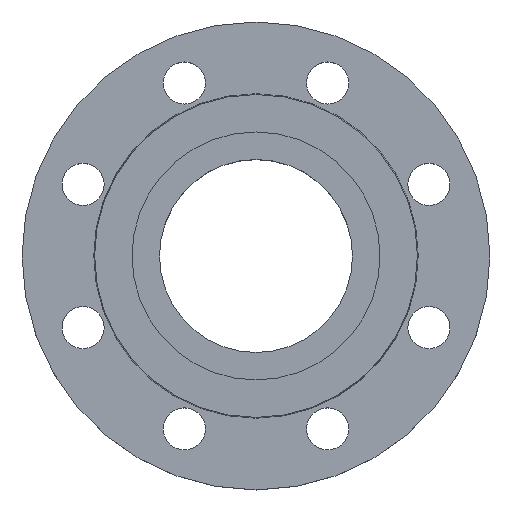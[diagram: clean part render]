
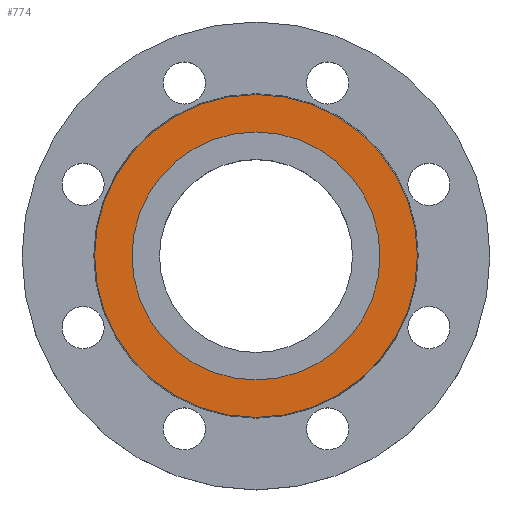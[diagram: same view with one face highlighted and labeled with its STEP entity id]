
A CAD part, top view. The second image highlights one B-rep face of the part: STEP entity #774.
In plain terms, the highlighted planar face has unit normal (0, 0, 1).
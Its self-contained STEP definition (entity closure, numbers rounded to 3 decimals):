
#111 = CARTESIAN_POINT ( 'NONE',  ( 53., 0., 0. ) ) ;
#114 = CARTESIAN_POINT ( 'NONE',  ( -69., 0., 0. ) ) ;
#117 = CARTESIAN_POINT ( 'NONE',  ( 69., 0., 0. ) ) ;
#121 = AXIS2_PLACEMENT_3D ( 'NONE', #251, #250, #249 ) ;
#249 = DIRECTION ( 'NONE',  ( -1., 0., 0. ) ) ;
#250 = DIRECTION ( 'NONE',  ( 0., 0., -1. ) ) ;
#251 = CARTESIAN_POINT ( 'NONE',  ( 0., 0., 0. ) ) ;
#252 = DIRECTION ( 'NONE',  ( -1., 0., 0. ) ) ;
#254 = DIRECTION ( 'NONE',  ( 0., 0., -1. ) ) ;
#255 = CARTESIAN_POINT ( 'NONE',  ( 0., 0., 0. ) ) ;
#259 = CIRCLE ( 'NONE', #121, 53. ) ;
#284 = CARTESIAN_POINT ( 'NONE',  ( -53., 0., 0. ) ) ;
#364 = AXIS2_PLACEMENT_3D ( 'NONE', #576, #574, #573 ) ;
#368 = CIRCLE ( 'NONE', #364, 69. ) ;
#454 = DIRECTION ( 'NONE',  ( 1., 0., 0. ) ) ;
#455 = DIRECTION ( 'NONE',  ( 0., 0., 1. ) ) ;
#456 = CARTESIAN_POINT ( 'NONE',  ( 0., 0., 0. ) ) ;
#458 = PLANE ( 'NONE',  #710 ) ;
#459 = FACE_BOUND ( 'NONE', #1068, .T. ) ;
#460 = FACE_OUTER_BOUND ( 'NONE', #1194, .T. ) ;
#502 = EDGE_CURVE ( 'NONE', #1099, #1097, #368, .T. ) ;
#546 = DIRECTION ( 'NONE',  ( -1., 0., 0. ) ) ;
#547 = DIRECTION ( 'NONE',  ( 0., 0., -1. ) ) ;
#548 = CARTESIAN_POINT ( 'NONE',  ( 0., 0., 0. ) ) ;
#573 = DIRECTION ( 'NONE',  ( -1., 0., 0. ) ) ;
#574 = DIRECTION ( 'NONE',  ( 0., 0., -1. ) ) ;
#576 = CARTESIAN_POINT ( 'NONE',  ( 0., 0., 0. ) ) ;
#580 = EDGE_CURVE ( 'NONE', #967, #1104, #649, .T. ) ;
#649 = CIRCLE ( 'NONE', #651, 53. ) ;
#651 = AXIS2_PLACEMENT_3D ( 'NONE', #548, #547, #546 ) ;
#710 = AXIS2_PLACEMENT_3D ( 'NONE', #456, #455, #454 ) ;
#755 = CIRCLE ( 'NONE', #779, 69. ) ;
#756 = ORIENTED_EDGE ( 'NONE', *, *, #502, .F. ) ;
#757 = ORIENTED_EDGE ( 'NONE', *, *, #1019, .F. ) ;
#758 = ORIENTED_EDGE ( 'NONE', *, *, #580, .T. ) ;
#761 = ORIENTED_EDGE ( 'NONE', *, *, #1023, .T. ) ;
#774 = ADVANCED_FACE ( 'NONE', ( #460, #459 ), #458, .T. ) ;
#779 = AXIS2_PLACEMENT_3D ( 'NONE', #255, #254, #252 ) ;
#967 = VERTEX_POINT ( 'NONE', #284 ) ;
#1019 = EDGE_CURVE ( 'NONE', #1097, #1099, #755, .T. ) ;
#1023 = EDGE_CURVE ( 'NONE', #1104, #967, #259, .T. ) ;
#1068 = EDGE_LOOP ( 'NONE', ( #758, #761 ) ) ;
#1097 = VERTEX_POINT ( 'NONE', #117 ) ;
#1099 = VERTEX_POINT ( 'NONE', #114 ) ;
#1104 = VERTEX_POINT ( 'NONE', #111 ) ;
#1194 = EDGE_LOOP ( 'NONE', ( #756, #757 ) ) ;
